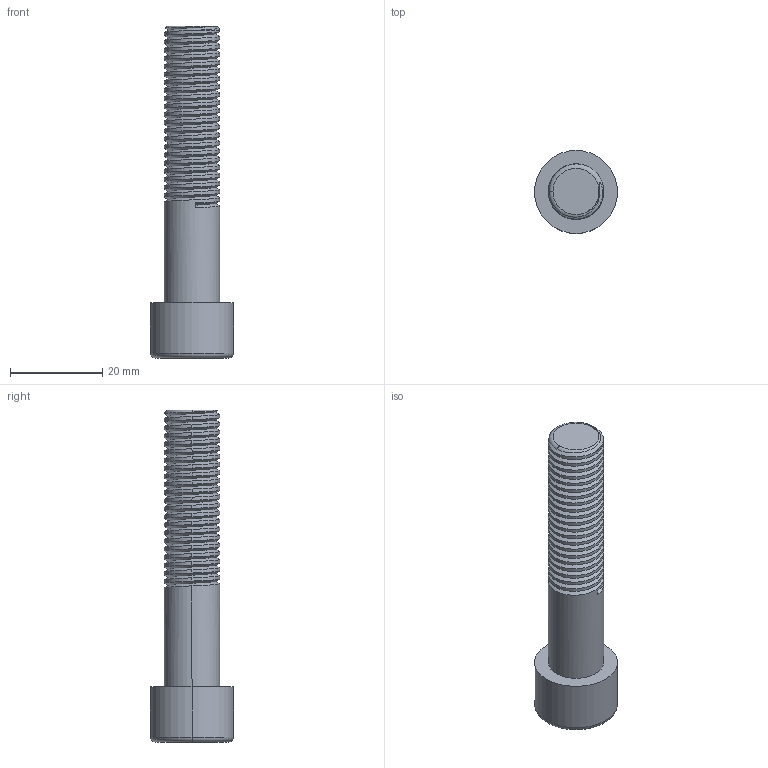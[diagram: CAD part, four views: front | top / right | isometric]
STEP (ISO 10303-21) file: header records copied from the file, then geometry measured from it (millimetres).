
FILE_DESCRIPTION (( 'STEP AP203' ), '1' );
FILE_NAME ('151-CE-HSN-M12.STEP', '2015-07-09T09:06:40', ( '' ), ( '' ), 'SwSTEP 2.0', 'SolidWorks 2013', '' );
FILE_SCHEMA (( 'CONFIG_CONTROL_DESIGN' ));
Length unit declared in the file: millimetre
Products named in the file (1): 151-CE-HSN-M12
Bounding box: 18 x 18 x 72 mm (x, y, z)
Volume: 8932.1 mm3; surface area: 4350.4 mm2
Topology: 1 solids, 1 shells, 65 faces, 180 edges, 119 vertices
Faces by surface type: cylinder 47, plane 11, torus 5, bspline 2
Entity records: 5272 total; most frequent: CARTESIAN_POINT 3809, ORIENTED_EDGE 360, DIRECTION 227, EDGE_CURVE 180, VERTEX_POINT 119, AXIS2_PLACEMENT_3D 81, EDGE_LOOP 67, LINE 65
